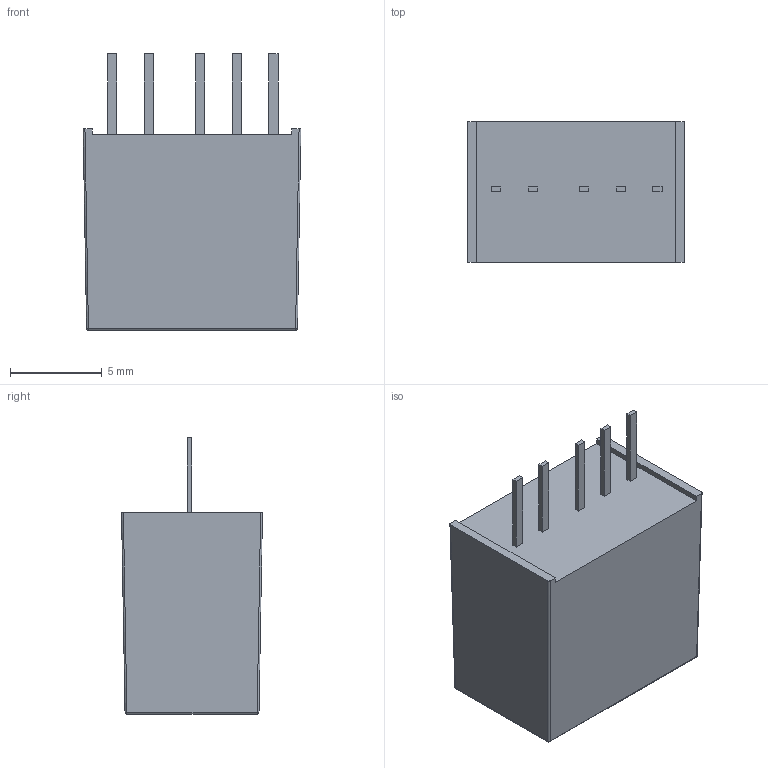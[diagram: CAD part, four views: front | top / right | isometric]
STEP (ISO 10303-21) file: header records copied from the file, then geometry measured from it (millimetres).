
FILE_DESCRIPTION (( 'STEP AP214' ), '1' );
FILE_NAME ('trn1-3_dual.STEP', '2017-06-02T12:25:29', ( '' ), ( '' ), 'SwSTEP 2.0', 'SolidWorks 2013', '' );
FILE_SCHEMA (( 'AUTOMOTIVE_DESIGN' ));
Length unit declared in the file: millimetre
Products named in the file (1): trn1-3_dual
Bounding box: 11.9 x 7.7 x 15.1 mm (x, y, z)
Volume: 944.5 mm3; surface area: 626.3 mm2
Topology: 1 solids, 1 shells, 50 faces, 114 edges, 72 vertices
Faces by surface type: plane 36, cylinder 10, sphere 4
Entity records: 1687 total; most frequent: CARTESIAN_POINT 249, DIRECTION 228, ORIENTED_EDGE 228, EDGE_CURVE 114, LINE 94, VECTOR 94, VERTEX_POINT 72, AXIS2_PLACEMENT_3D 67
